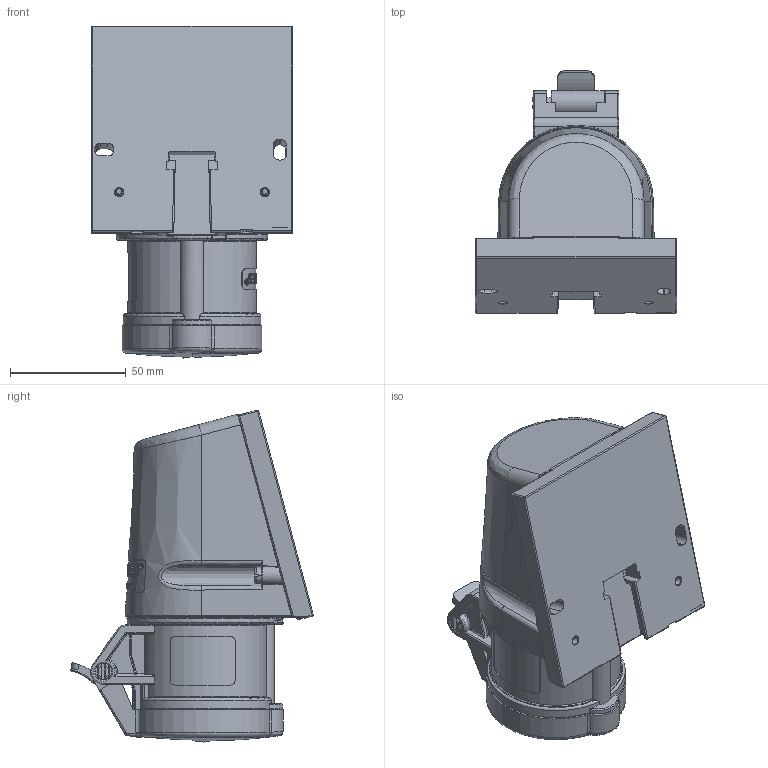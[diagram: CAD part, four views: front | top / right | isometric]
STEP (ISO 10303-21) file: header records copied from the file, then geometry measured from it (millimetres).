
FILE_DESCRIPTION((''),'2;1');
FILE_NAME('1116475_ASM_SW0001','2018-06-05T',('gisse'),('MENNEKES'),'PRO/ENGINEER BY PARAMETRIC TECHNOLOGY CORPORATION, 2015440','PRO/ENGINEER BY PARAMETRIC TECHNOLOGY CORPORATION, 2015440','');
FILE_SCHEMA(('AUTOMOTIVE_DESIGN { 1 0 10303 214 1 1 1 1 }'));
Products named in the file (1): 1116475_ASM_SW0001
Bounding box: 86.98 x 104.95 x 143.67 mm (x, y, z)
Volume: 488600.7 mm3; surface area: 55579.6 mm2
Topology: 1 solids, 1 shells, 1706 faces, 4535 edges, 2875 vertices
Faces by surface type: plane 642, cylinder 387, extrusion 270, bspline 219, cone 80, torus 74, sphere 34
Entity records: 89270 total; most frequent: CARTESIAN_POINT 29652, ORIENTED_EDGE 9054, DIRECTION 6476, EDGE_CURVE 4527, FILL_AREA_STYLE_COLOUR 3260, FILL_AREA_STYLE 3260, SURFACE_STYLE_FILL_AREA 3260, SURFACE_SIDE_STYLE 3260
